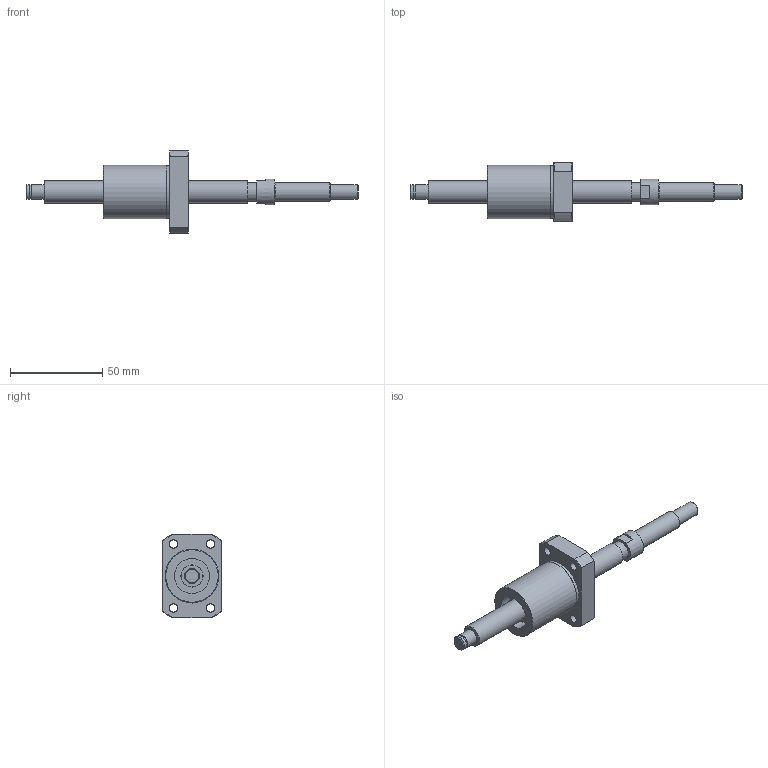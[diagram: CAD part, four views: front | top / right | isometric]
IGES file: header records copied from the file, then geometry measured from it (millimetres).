
Start section: Data from Parasolid IGES Translator 26.0.171, Copyright(c) 2006 Siemens PLM Software. All Rights Reserved.
Global section: file name: BNK1208-2.6RRG2+180LC7Y(780).igs; native system: By Siemens PLM Incorporated; preprocessor: XPlus GENERIC/IGES 26.0.171; author: Noname; organization: Noname; date: 20240709.091057; units: millimetre
Bounding box: 180 x 32 x 45 mm (x, y, z)
Surface area: 16844.6 mm2 (no closed solid volume)
Topology: 0 solids, 0 shells, 76 faces, 327 edges, 284 vertices
Faces by surface type: revolution 47, extrusion 29
